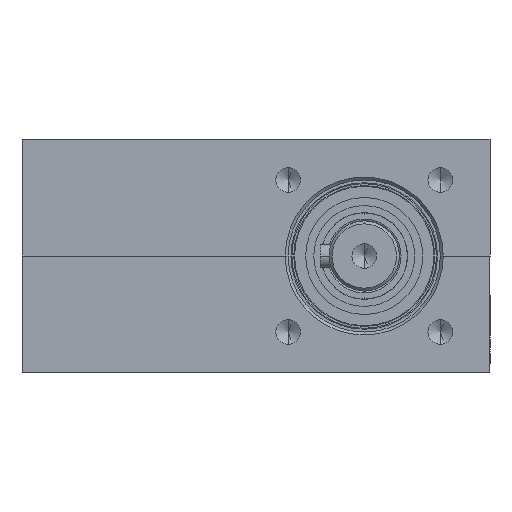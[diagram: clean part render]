
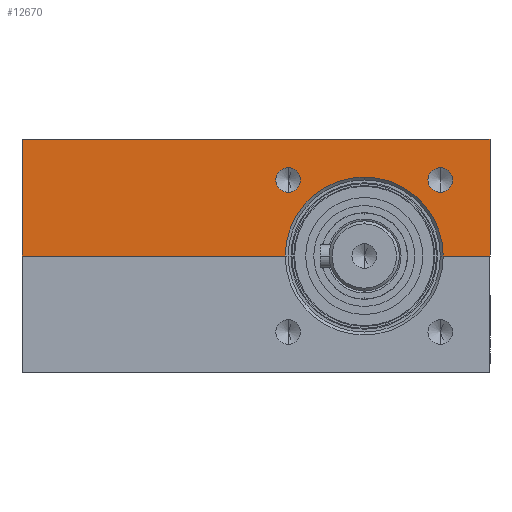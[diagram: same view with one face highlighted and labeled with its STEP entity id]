
A CAD part, left-side view. The second image highlights one B-rep face of the part: STEP entity #12670.
In plain terms, the highlighted planar face has unit normal (-1, 0, 0).
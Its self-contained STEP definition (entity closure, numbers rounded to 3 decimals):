
#290 = CARTESIAN_POINT ( 'NONE',  ( -40., 27.5, 20. ) ) ;
#332 = DIRECTION ( 'NONE',  ( 0., 1., 0. ) ) ;
#448 = VERTEX_POINT ( 'NONE', #4372 ) ;
#486 = DIRECTION ( 'NONE',  ( 0., -1., 0. ) ) ;
#737 = EDGE_CURVE ( 'NONE', #4959, #4379, #7838, .T. ) ;
#1264 = VECTOR ( 'NONE', #15728, 1000. ) ;
#1774 = AXIS2_PLACEMENT_3D ( 'NONE', #13225, #6397, #15947 ) ;
#1800 = VERTEX_POINT ( 'NONE', #290 ) ;
#1818 = DIRECTION ( 'NONE',  ( 0., 0., 1. ) ) ;
#1829 = CARTESIAN_POINT ( 'NONE',  ( -40., 27.5, 0. ) ) ;
#1949 = EDGE_CURVE ( 'NONE', #11151, #448, #9202, .T. ) ;
#2266 = CARTESIAN_POINT ( 'NONE',  ( -40., -52.5, 20. ) ) ;
#2745 = CARTESIAN_POINT ( 'NONE',  ( -40., -31., 0. ) ) ;
#2847 = VERTEX_POINT ( 'NONE', #15954 ) ;
#2890 = FACE_BOUND ( 'NONE', #15163, .T. ) ;
#2940 = LINE ( 'NONE', #4132, #7067 ) ;
#2956 = CIRCLE ( 'NONE', #3498, 2.1 ) ;
#3049 = DIRECTION ( 'NONE',  ( 0., 0., 1. ) ) ;
#3215 = DIRECTION ( 'NONE',  ( -1., 0., 0. ) ) ;
#3458 = CARTESIAN_POINT ( 'NONE',  ( -40., -31., 13.5 ) ) ;
#3498 = AXIS2_PLACEMENT_3D ( 'NONE', #4250, #3215, #3049 ) ;
#3980 = ORIENTED_EDGE ( 'NONE', *, *, #14376, .F. ) ;
#4132 = CARTESIAN_POINT ( 'NONE',  ( -40., 27.5, 20. ) ) ;
#4250 = CARTESIAN_POINT ( 'NONE',  ( -40., -18., 13. ) ) ;
#4372 = CARTESIAN_POINT ( 'NONE',  ( -40., -18., 15.1 ) ) ;
#4379 = VERTEX_POINT ( 'NONE', #7224 ) ;
#4419 = FACE_BOUND ( 'NONE', #11702, .T. ) ;
#4959 = VERTEX_POINT ( 'NONE', #5487 ) ;
#5176 = LINE ( 'NONE', #10507, #1264 ) ;
#5268 = CARTESIAN_POINT ( 'NONE',  ( -40., 27.5, 0. ) ) ;
#5357 = EDGE_CURVE ( 'NONE', #1800, #4959, #2940, .T. ) ;
#5487 = CARTESIAN_POINT ( 'NONE',  ( -40., -52.5, 20. ) ) ;
#5521 = CARTESIAN_POINT ( 'NONE',  ( -40., -31., 0. ) ) ;
#5529 = AXIS2_PLACEMENT_3D ( 'NONE', #2745, #10688, #6698 ) ;
#6118 = ORIENTED_EDGE ( 'NONE', *, *, #14566, .T. ) ;
#6285 = CARTESIAN_POINT ( 'NONE',  ( -40., -18., 10.9 ) ) ;
#6345 = CARTESIAN_POINT ( 'NONE',  ( -40., -44., 10.9 ) ) ;
#6397 = DIRECTION ( 'NONE',  ( -1., 0., 0. ) ) ;
#6399 = DIRECTION ( 'NONE',  ( -1., 0., 0. ) ) ;
#6405 = CIRCLE ( 'NONE', #10278, 13.5 ) ;
#6698 = DIRECTION ( 'NONE',  ( 0., 1., 0. ) ) ;
#6908 = CIRCLE ( 'NONE', #11579, 2.1 ) ;
#6910 = DIRECTION ( 'NONE',  ( 1., 0., 0. ) ) ;
#7067 = VECTOR ( 'NONE', #8178, 1000. ) ;
#7130 = EDGE_CURVE ( 'NONE', #8153, #12151, #6908, .T. ) ;
#7224 = CARTESIAN_POINT ( 'NONE',  ( -40., -52.5, 0. ) ) ;
#7368 = CARTESIAN_POINT ( 'NONE',  ( -40., -44.5, 0. ) ) ;
#7494 = DIRECTION ( 'NONE',  ( 0., 0., -1. ) ) ;
#7659 = AXIS2_PLACEMENT_3D ( 'NONE', #8340, #13652, #1818 ) ;
#7762 = ORIENTED_EDGE ( 'NONE', *, *, #14045, .F. ) ;
#7838 = LINE ( 'NONE', #2266, #16963 ) ;
#7871 = EDGE_LOOP ( 'NONE', ( #13045, #14179, #6118, #11440, #9912, #14018, #11731 ) ) ;
#8153 = VERTEX_POINT ( 'NONE', #6345 ) ;
#8178 = DIRECTION ( 'NONE',  ( 0., -1., 0. ) ) ;
#8340 = CARTESIAN_POINT ( 'NONE',  ( -40., -44., 13. ) ) ;
#8527 = CIRCLE ( 'NONE', #5529, 13.5 ) ;
#9014 = VERTEX_POINT ( 'NONE', #7368 ) ;
#9202 = CIRCLE ( 'NONE', #1774, 2.1 ) ;
#9395 = ORIENTED_EDGE ( 'NONE', *, *, #7130, .F. ) ;
#9396 = DIRECTION ( 'NONE',  ( 0., 1., 0. ) ) ;
#9524 = PLANE ( 'NONE',  #12255 ) ;
#9912 = ORIENTED_EDGE ( 'NONE', *, *, #737, .F. ) ;
#10278 = AXIS2_PLACEMENT_3D ( 'NONE', #5521, #14768, #9396 ) ;
#10343 = ORIENTED_EDGE ( 'NONE', *, *, #1949, .F. ) ;
#10507 = CARTESIAN_POINT ( 'NONE',  ( -40., 27.5, 20. ) ) ;
#10523 = DIRECTION ( 'NONE',  ( 0., -1., 0. ) ) ;
#10688 = DIRECTION ( 'NONE',  ( 1., 0., 0. ) ) ;
#10732 = FACE_OUTER_BOUND ( 'NONE', #7871, .T. ) ;
#10868 = EDGE_CURVE ( 'NONE', #2847, #11104, #13575, .T. ) ;
#11104 = VERTEX_POINT ( 'NONE', #15735 ) ;
#11151 = VERTEX_POINT ( 'NONE', #6285 ) ;
#11251 = EDGE_CURVE ( 'NONE', #11104, #14232, #6405, .T. ) ;
#11334 = VECTOR ( 'NONE', #10523, 1000. ) ;
#11440 = ORIENTED_EDGE ( 'NONE', *, *, #15479, .T. ) ;
#11579 = AXIS2_PLACEMENT_3D ( 'NONE', #13493, #6399, #12080 ) ;
#11702 = EDGE_LOOP ( 'NONE', ( #7762, #10343 ) ) ;
#11731 = ORIENTED_EDGE ( 'NONE', *, *, #13210, .T. ) ;
#12080 = DIRECTION ( 'NONE',  ( 0., 0., 1. ) ) ;
#12151 = VERTEX_POINT ( 'NONE', #14489 ) ;
#12255 = AXIS2_PLACEMENT_3D ( 'NONE', #14635, #6910, #332 ) ;
#12431 = VECTOR ( 'NONE', #486, 1000. ) ;
#12670 = ADVANCED_FACE ( 'NONE', ( #2890, #4419, #10732 ), #9524, .F. ) ;
#12678 = LINE ( 'NONE', #5268, #11334 ) ;
#13045 = ORIENTED_EDGE ( 'NONE', *, *, #10868, .T. ) ;
#13210 = EDGE_CURVE ( 'NONE', #1800, #2847, #5176, .T. ) ;
#13225 = CARTESIAN_POINT ( 'NONE',  ( -40., -18., 13. ) ) ;
#13493 = CARTESIAN_POINT ( 'NONE',  ( -40., -44., 13. ) ) ;
#13575 = LINE ( 'NONE', #1829, #12431 ) ;
#13652 = DIRECTION ( 'NONE',  ( -1., 0., 0. ) ) ;
#14018 = ORIENTED_EDGE ( 'NONE', *, *, #5357, .F. ) ;
#14045 = EDGE_CURVE ( 'NONE', #448, #11151, #2956, .T. ) ;
#14179 = ORIENTED_EDGE ( 'NONE', *, *, #11251, .T. ) ;
#14232 = VERTEX_POINT ( 'NONE', #3458 ) ;
#14376 = EDGE_CURVE ( 'NONE', #12151, #8153, #15696, .T. ) ;
#14489 = CARTESIAN_POINT ( 'NONE',  ( -40., -44., 15.1 ) ) ;
#14566 = EDGE_CURVE ( 'NONE', #14232, #9014, #8527, .T. ) ;
#14635 = CARTESIAN_POINT ( 'NONE',  ( -40., 27.5, 20. ) ) ;
#14768 = DIRECTION ( 'NONE',  ( 1., 0., 0. ) ) ;
#15163 = EDGE_LOOP ( 'NONE', ( #3980, #9395 ) ) ;
#15479 = EDGE_CURVE ( 'NONE', #9014, #4379, #12678, .T. ) ;
#15696 = CIRCLE ( 'NONE', #7659, 2.1 ) ;
#15728 = DIRECTION ( 'NONE',  ( 0., 0., -1. ) ) ;
#15735 = CARTESIAN_POINT ( 'NONE',  ( -40., -17.5, 0. ) ) ;
#15947 = DIRECTION ( 'NONE',  ( 0., 0., 1. ) ) ;
#15954 = CARTESIAN_POINT ( 'NONE',  ( -40., 27.5, 0. ) ) ;
#16963 = VECTOR ( 'NONE', #7494, 1000. ) ;
